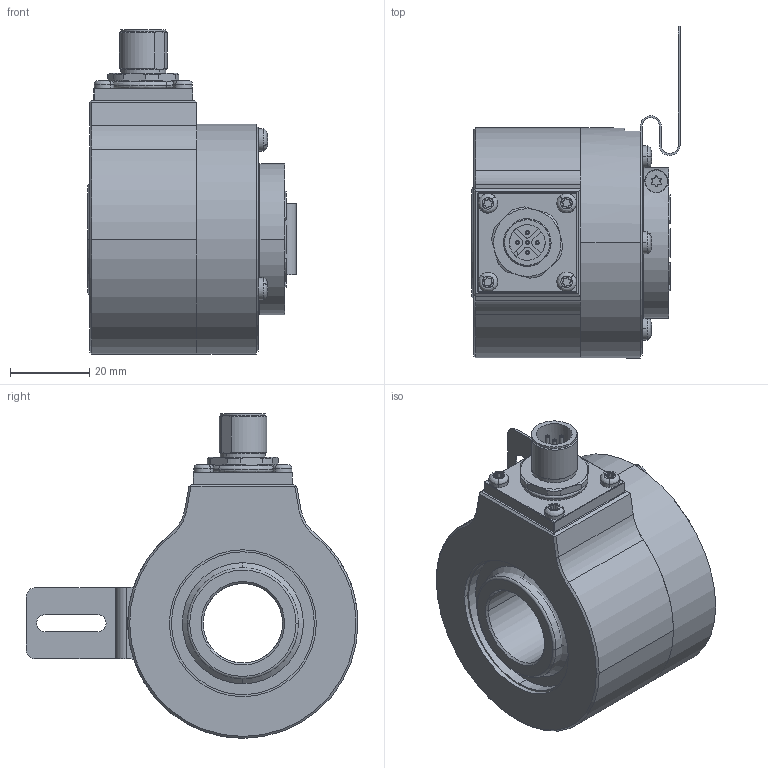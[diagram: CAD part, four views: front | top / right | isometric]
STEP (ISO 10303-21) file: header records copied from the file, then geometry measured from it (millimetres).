
FILE_DESCRIPTION (( 'STEP AP203' ), '1' );
FILE_NAME ('K58I.OXX.XXXXX.XH15520.XXRC6.step', '2025-12-03T08:12:54', ( '' ), ( '' ), 'SwSTEP 2.0', 'SolidWorks 2021', '' );
FILE_SCHEMA (( 'CONFIG_CONTROL_DESIGN' ));
Length unit declared in the file: millimetre
Products named in the file (1): K58I.OXX.XXXXX.XH15520.XXRC6
Bounding box: 52.45 x 83.61 x 81.8 mm (x, y, z)
Surface area: 43816.6 mm2 (no closed solid volume)
Topology: 0 solids, 13 shells, 566 faces, 1423 edges, 900 vertices
Faces by surface type: cylinder 279, plane 174, cone 81, bspline 30, torus 2
Entity records: 19746 total; most frequent: CARTESIAN_POINT 6050, DIRECTION 2940, ORIENTED_EDGE 2806, EDGE_CURVE 1411, AXIS2_PLACEMENT_3D 1164, VERTEX_POINT 900, EDGE_LOOP 637, CIRCLE 627
